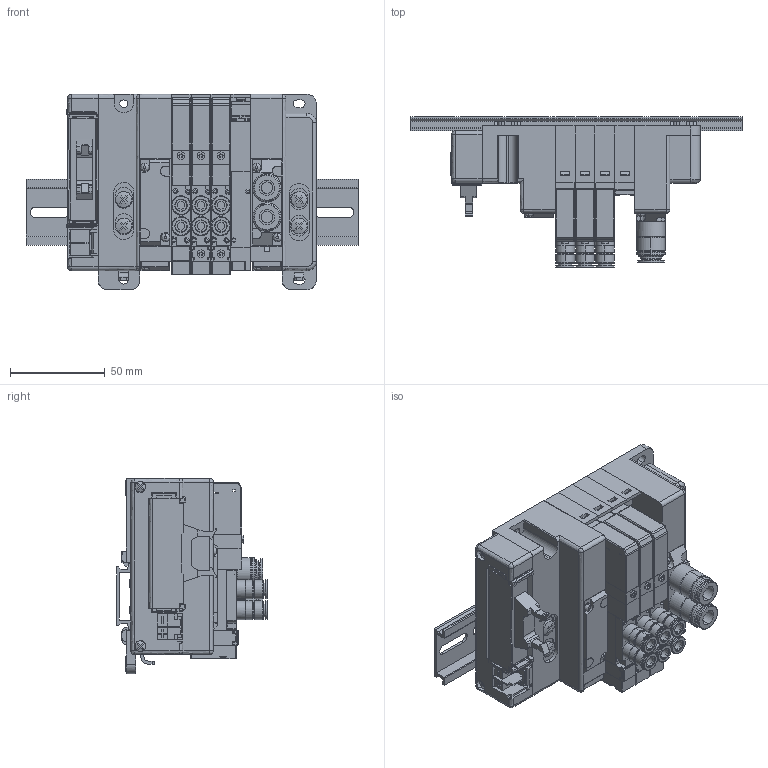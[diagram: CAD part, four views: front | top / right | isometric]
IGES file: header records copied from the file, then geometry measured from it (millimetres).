
Start section: ------------------------------------------------------------------------
Global section: file name: D:\ICADMX\tmp\trans3d_spg\CVICAD02.2536.F10M4XP-JR-F10x-DN_14855.igs; native system: spGate; preprocessor: ver12.6.6; author: Unknown; organization: Unknown; date: 200901.145653; units: millimetre
Bounding box: 175 x 79.5 x 103 mm (x, y, z)
Volume: 497576.4 mm3; surface area: 165260.7 mm2
Topology: 39 solids, 39 shells, 3879 faces, 10580 edges, 7319 vertices
Faces by surface type: bspline 3879
